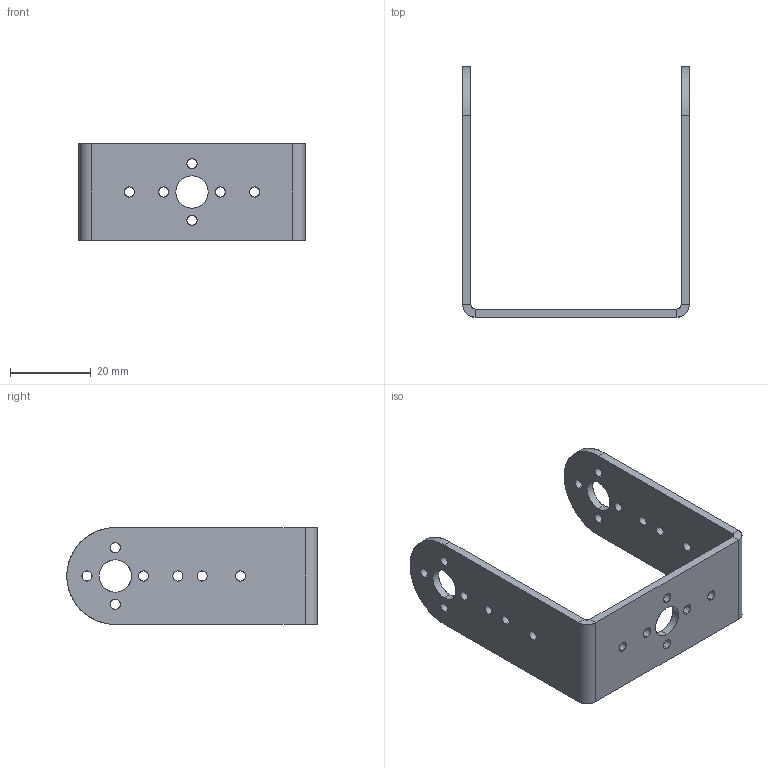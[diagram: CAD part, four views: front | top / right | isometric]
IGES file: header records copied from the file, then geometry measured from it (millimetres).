
Start section: SolidWorks IGES file using analytic representation for surfaces
Global section: file name: D:\Autres\Projets\CAO\Servo Brackets\U Long Bracket.IGS; native system: SolidWorks 2015; preprocessor: SolidWorks 2015; author: Hendricks; date: 150615.051231; units: millimetre
Bounding box: 56 x 62 x 24 mm (x, y, z)
Surface area: 8837.3 mm2 (no closed solid volume)
Topology: 0 solids, 0 shells, 69 faces, 1864 edges, 1864 vertices
Faces by surface type: revolution 53, bspline 16
